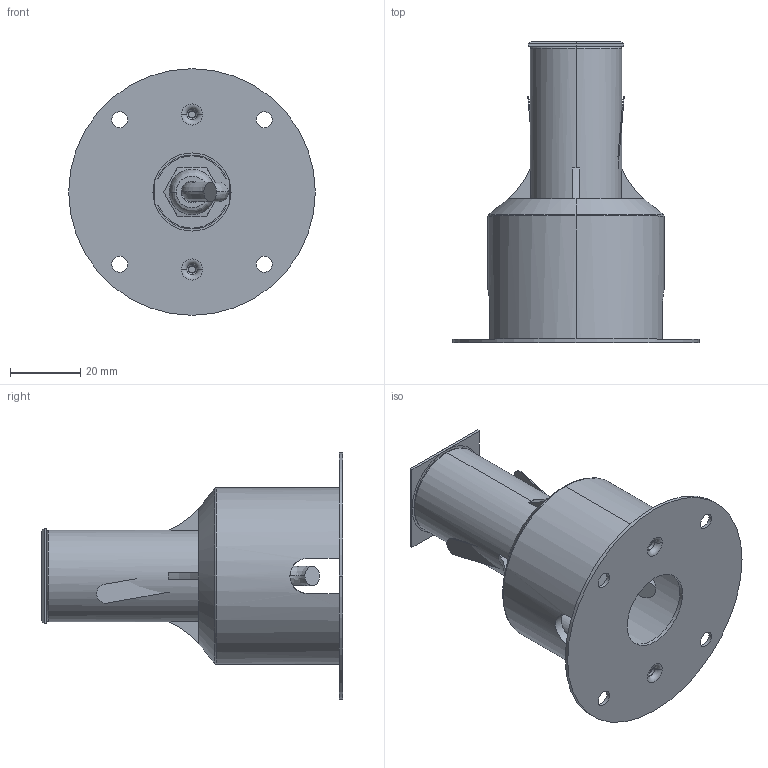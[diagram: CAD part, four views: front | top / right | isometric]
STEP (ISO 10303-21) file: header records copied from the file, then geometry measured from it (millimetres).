
FILE_DESCRIPTION((''),'2;1');
FILE_NAME('B2BPR0156-B2BPS0156-_S_W_I__-2_ASM','2025-12-12T',('Administrator'),(''),'CREO PARAMETRIC BY PTC INC, 2015200','CREO PARAMETRIC BY PTC INC, 2015200','');
FILE_SCHEMA(('CONFIG_CONTROL_DESIGN'));
Length unit declared in the file: millimetre
Products named in the file (17): 2BP-C; 2M_PC_D19_9_2; 2BMS_MG_D27_16; _S__100_B2BPR0156_B2BPS0156__S_; 2BMR_MG_D27_2_2; B15_TOU_JING_10_2; 2BN_TOU_JING_YA_QUAN_8_2; PG7_CU_23_2; 2M_FSQ_D19_3_2; 2BN_DT_JIA_GAO_BAN_D20_20_2; 2M_KH_NO4_11_2; 2M_LJB_15_2; 2YC_LJB_3_2; 2BN_DT_ZJ_B15_ASM_27_ASM_2_ASM_ASM; 2BN0157_B15_ASM_55_ASM_2_ASM_ASM; 2BN_2BM_ALL_ASM_5_ASM_2_ASM_ASM; B2BPR0156-B2BPS0156-_S_W_I__-2_ASM
Assembly tree (16 placements, depth 5):
  B2BPR0156-B2BPS0156-_S_W_I__-2_ASM
    2BP-C
    2M_PC_D19_9_2
    2BMS_MG_D27_16
    _S__100_B2BPR0156_B2BPS0156__S_
    2BN_2BM_ALL_ASM_5_ASM_2_ASM_ASM
      2BMR_MG_D27_2_2
      2BN0157_B15_ASM_55_ASM_2_ASM_ASM
        B15_TOU_JING_10_2
        2BN_DT_ZJ_B15_ASM_27_ASM_2_ASM_ASM
          2BN_TOU_JING_YA_QUAN_8_2
          PG7_CU_23_2
          2M_FSQ_D19_3_2
          2BN_DT_JIA_GAO_BAN_D20_20_2
          2M_KH_NO4_11_2
          2M_LJB_15_2
          2YC_LJB_3_2
Bounding box: 70 x 85.6 x 70 mm (x, y, z)
Volume: 35103.1 mm3; surface area: 39645.1 mm2
Topology: 12 solids, 12 shells, 579 faces, 1562 edges, 1042 vertices
Faces by surface type: plane 337, cylinder 158, bspline 26, cone 24, torus 22, extrusion 9, revolution 2, sphere 1
Entity records: 24531 total; most frequent: CARTESIAN_POINT 9470, ORIENTED_EDGE 3120, DIRECTION 3028, EDGE_CURVE 1560, VERTEX_POINT 1042, AXIS2_PLACEMENT_3D 1037, VECTOR 952, LINE 943
